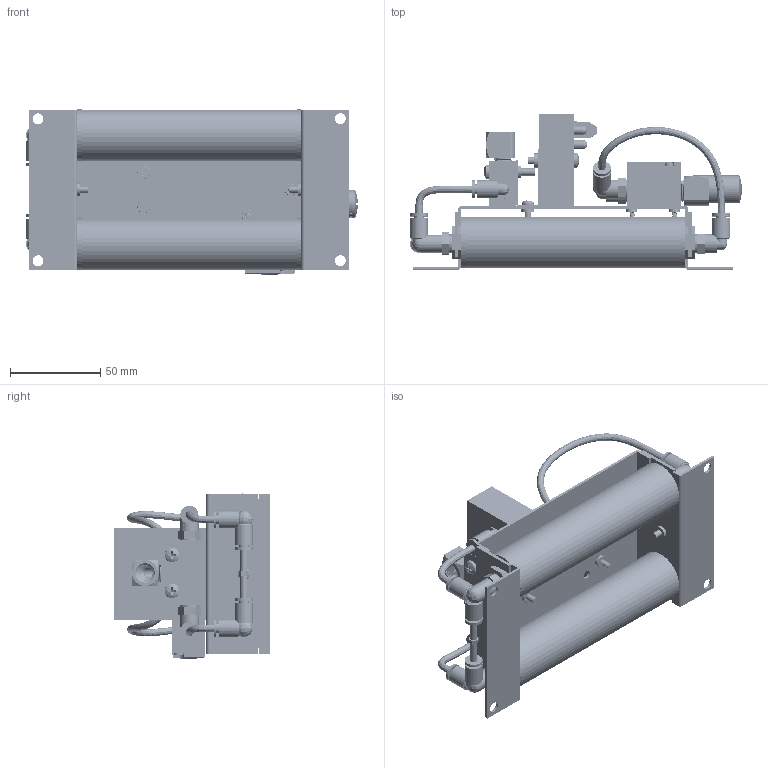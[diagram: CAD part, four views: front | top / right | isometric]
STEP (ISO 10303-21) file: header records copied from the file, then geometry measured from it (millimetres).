
FILE_DESCRIPTION (( 'STEP AP214' ), '1' );
FILE_NAME ('MDH1-XHE.STEP', '2020-09-16T22:02:52', ( '' ), ( '' ), 'SwSTEP 2.0', 'SolidWorks 2017', '' );
FILE_SCHEMA (( 'AUTOMOTIVE_DESIGN' ));
Length unit declared in the file: inch
Products named in the file (1): MDH1-XHE
Bounding box: 184.11 x 86 x 91.55 mm (x, y, z)
Volume: 458354.3 mm3; surface area: 234193.6 mm2
Topology: 77 solids, 77 shells, 7002 faces, 18647 edges, 12276 vertices
Faces by surface type: plane 3967, cylinder 2122, cone 408, bspline 390, sphere 59, torus 56
Entity records: 354517 total; most frequent: CARTESIAN_POINT 92673, ORIENTED_EDGE 37210, DIRECTION 32883, EDGE_CURVE 18605, VERTEX_POINT 12263, VECTOR 11973, LINE 11973, AXIS2_PLACEMENT_3D 10455
